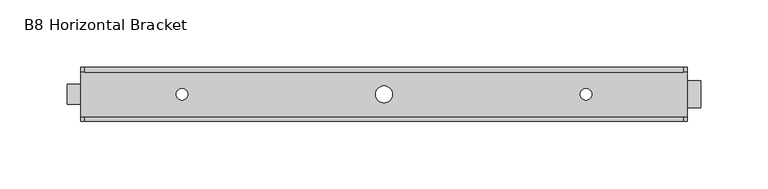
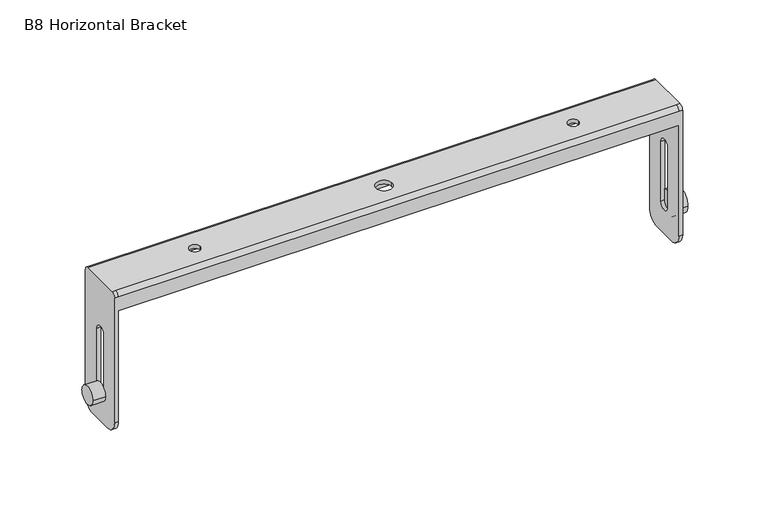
"""IFC4 building model written with IfcOpenShell, lengths in millimetres: proxy geometry, d&b B8 Horizontal Bracket : B8 Horizontal Bracket."""

from ifc_helpers import new_model, si_unit, point, frame, frame_2d, origin, place, context, project, spatial, polyline, circle_curve, trimmed, segment, composite_curve, outline, extrude, source, transform, mapped, element, save
from ifc_brep_helpers import plane_surface, cylinder_surface, revolved_surface, advanced_brep


def b8_horizontal_bracket_ac25d2c8(model_context):
    return source(origin(), model_context, "Body", "SolidModel", [
        extrude(outline(composite_curve([segment(trimmed(circle_curve(frame_2d((64.1784935, 59.2953074)), 7.5), [point((56.6784935, 59.2953074))], [point((71.6784935, 59.2953074))], False, "CARTESIAN"), True, "CONTINUOUS"), segment(trimmed(circle_curve(frame_2d((64.1784935, 59.2953074)), 7.5), [point((71.6784935, 59.2953074))], [point((56.6784935, 59.2953074))], False, "CARTESIAN"), True, "CONTINUOUS")], self_intersect=False)), frame((-235.0, 0.0, 0.0), z_axis=(1.0, 0.0, 0.0), x_axis=(0.0, 1.0, 0.0)), (0.0, 0.0, 1.0), 10.0),
        extrude(outline(composite_curve([segment(trimmed(circle_curve(frame_2d((64.1784935, 59.2953074)), 10.0), [point((54.1784935, 59.2953074))], [point((74.1784935, 59.2953074))], False, "CARTESIAN"), True, "CONTINUOUS"), segment(trimmed(circle_curve(frame_2d((64.1784935, 59.2953074)), 10.0), [point((74.1784935, 59.2953074))], [point((54.1784935, 59.2953074))], False, "CARTESIAN"), True, "CONTINUOUS")], self_intersect=False)), frame((225.0, 0.0, 0.0), z_axis=(1.0, 0.0, 0.0), x_axis=(0.0, 1.0, 0.0)), (0.0, 0.0, 1.0), 10.0),
        advanced_brep(
        [(222.0, 84.2129376, 137.6953074), (-222.0, 84.2129376, 137.6953074), (-222.0, 84.2129376, 44.6953074), (-225.0, 84.2129376, 44.6953074), (-225.0, 84.2129376, 149.1953074), (-222.0, 84.2129376, 149.1953074), (222.0, 84.2129376, 149.1953074), (225.0, 84.2129376, 149.1953074), (225.0, 84.2129376, 44.6953074), (222.0, 84.2129376, 44.6953074), (-222.0, 80.7129376, 152.6953074), (222.0, 80.7129376, 152.6953074), (-225.0, 80.7129376, 152.6953074), (-225.0, 47.7129376, 152.6953074), (-222.0, 47.7129376, 152.6953074), (222.0, 47.7129376, 152.6953074), (225.0, 47.7129376, 152.6953074), (225.0, 80.7129376, 152.6953074), (-6.2226427, 64.2129376, 152.6953074), (6.2226427, 64.2129376, 152.6953074), (145.7334614, 64.2129376, 152.6953074), (154.2334614, 64.2129376, 152.6953074), (-154.2334614, 64.2129376, 152.6953074), (-145.7334614, 64.2129376, 152.6953074), (-222.0, 81.2129376, 149.6953074), (222.0, 81.2129376, 149.6953074), (222.0, 47.2129376, 149.6953074), (-222.0, 47.2129376, 149.6953074), (-6.2226427, 64.2129376, 149.6953074), (6.2226427, 64.2129376, 149.6953074), (145.7334614, 64.2129376, 149.6953074), (154.2334614, 64.2129376, 149.6953074), (-154.2334614, 64.2129376, 149.6953074), (-145.7334614, 64.2129376, 149.6953074), (-222.0, 81.2129376, 137.6953074), (222.0, 81.2129376, 137.6953074), (222.0, 44.2129376, 137.6953074), (-222.0, 44.2129376, 137.6953074), (-222.0, 47.2129376, 137.6953074), (222.0, 47.2129376, 137.6953074), (-222.0, 44.2129376, 149.1953074), (222.0, 44.2129376, 149.1953074), (222.0, 44.2129376, 44.6953074), (225.0, 44.2129376, 44.6953074), (225.0, 44.2129376, 149.1953074), (-225.0, 44.2129376, 149.1953074), (-225.0, 44.2129376, 44.6953074), (-222.0, 44.2129376, 44.6953074), (-222.0, 54.2129376, 34.6953074), (-222.0, 74.2129376, 34.6953074), (-222.0, 68.7129376, 59.2953074), (-222.0, 59.7129376, 58.5079094), (-222.0, 59.7129376, 108.5079094), (-222.0, 68.7129376, 109.2953074), (-225.0, 74.2129376, 34.6953074), (-225.0, 54.2129376, 34.6953074), (-225.0, 68.7129376, 59.2953074), (-225.0, 68.7129376, 109.2953074), (-225.0, 59.7129376, 108.5079094), (-225.0, 59.7129376, 58.5079094), (225.0, 54.2129376, 34.6953074), (225.0, 74.2129376, 34.6953074), (225.0, 68.7129376, 59.2953074), (225.0, 59.7129376, 58.5079094), (225.0, 59.7129376, 108.5079094), (225.0, 68.7129376, 109.2953074), (222.0, 74.2129376, 34.6953074), (222.0, 54.2129376, 34.6953074), (222.0, 68.7129376, 59.2953074), (222.0, 68.7129376, 109.2953074), (222.0, 59.7129376, 108.5079094), (222.0, 59.7129376, 58.5079094)],
        [
            (0, 1),
            (1, 2),
            (2, 3),
            (3, 4),
            (4, 5),
            (5, 6),
            (6, 7),
            (7, 8),
            (8, 9),
            (9, 0),
            (5, 10, circle_curve(frame((-222.0, 80.7129376, 149.1953074), z_axis=(1.0, 0.0, 0.0), x_axis=(0.0, 1.0, 0.0)), 3.5)),
            (10, 11),
            (11, 6, circle_curve(frame((222.0, 80.7129376, 149.1953074), z_axis=(-1.0, 0.0, 0.0), x_axis=(0.0, 1.0, 0.0)), 3.5)),
            (10, 12),
            (12, 13),
            (13, 14),
            (14, 15),
            (15, 16),
            (16, 17),
            (17, 11),
            (18, 19, circle_curve(frame((0.0, 64.2129376, 152.6953074), z_axis=(0.0, 0.0, -1.0), x_axis=(1.0, 0.0, 0.0)), 6.2226427)),
            (19, 18, circle_curve(frame((0.0, 64.2129376, 152.6953074), z_axis=(0.0, 0.0, -1.0), x_axis=(1.0, 0.0, 0.0)), 6.2226427)),
            (20, 21, circle_curve(frame((149.9834614, 64.2129376, 152.6953074), z_axis=(0.0, 0.0, -1.0), x_axis=(1.0, 0.0, 0.0)), 4.25)),
            (21, 20, circle_curve(frame((149.9834614, 64.2129376, 152.6953074), z_axis=(0.0, 0.0, -1.0), x_axis=(1.0, 0.0, 0.0)), 4.25)),
            (22, 23, circle_curve(frame((-149.9834614, 64.2129376, 152.6953074), z_axis=(0.0, 0.0, -1.0), x_axis=(1.0, 0.0, 0.0)), 4.25)),
            (23, 22, circle_curve(frame((-149.9834614, 64.2129376, 152.6953074), z_axis=(0.0, 0.0, -1.0), x_axis=(1.0, 0.0, 0.0)), 4.25)),
            (24, 25),
            (25, 26),
            (26, 27),
            (27, 24),
            (28, 29, circle_curve(frame((0.0, 64.2129376, 149.6953074), z_axis=(0.0, 0.0, 1.0), x_axis=(1.0, 0.0, 0.0)), 6.2226427)),
            (29, 28, circle_curve(frame((0.0, 64.2129376, 149.6953074), z_axis=(0.0, 0.0, 1.0), x_axis=(1.0, 0.0, 0.0)), 6.2226427)),
            (30, 31, circle_curve(frame((149.9834614, 64.2129376, 149.6953074), z_axis=(0.0, 0.0, 1.0), x_axis=(1.0, 0.0, 0.0)), 4.25)),
            (31, 30, circle_curve(frame((149.9834614, 64.2129376, 149.6953074), z_axis=(0.0, 0.0, 1.0), x_axis=(1.0, 0.0, 0.0)), 4.25)),
            (32, 33, circle_curve(frame((-149.9834614, 64.2129376, 149.6953074), z_axis=(0.0, 0.0, 1.0), x_axis=(1.0, 0.0, 0.0)), 4.25)),
            (33, 32, circle_curve(frame((-149.9834614, 64.2129376, 149.6953074), z_axis=(0.0, 0.0, 1.0), x_axis=(1.0, 0.0, 0.0)), 4.25)),
            (24, 34),
            (34, 35),
            (35, 25),
            (0, 35),
            (34, 1),
            (36, 37),
            (37, 38),
            (38, 39),
            (39, 36),
            (38, 27),
            (26, 39),
            (14, 40, circle_curve(frame((-222.0, 47.7129376, 149.1953074), z_axis=(1.0, 0.0, 0.0), x_axis=(0.0, 1.0, 0.0)), 3.5)),
            (40, 41),
            (41, 15, circle_curve(frame((222.0, 47.7129376, 149.1953074), z_axis=(-1.0, 0.0, 0.0), x_axis=(0.0, 1.0, 0.0)), 3.5)),
            (36, 42),
            (42, 43),
            (43, 44),
            (44, 41),
            (40, 45),
            (45, 46),
            (46, 47),
            (47, 37),
            (28, 18),
            (19, 29),
            (30, 20),
            (21, 31),
            (32, 22),
            (23, 33),
            (47, 48, circle_curve(frame((-222.0, 54.2129376, 44.6953074), z_axis=(1.0, 0.0, 0.0), x_axis=(0.0, 1.0, 0.0)), 10.0)),
            (48, 49),
            (49, 2, circle_curve(frame((-222.0, 74.2129376, 44.6953074), z_axis=(1.0, 0.0, 0.0), x_axis=(0.0, 1.0, 0.0)), 10.0)),
            (50, 51, circle_curve(frame((-222.0, 64.1784935, 59.2953074), z_axis=(-1.0, 0.0, 0.0), x_axis=(0.0, 1.0, 0.0)), 4.5344442)),
            (51, 52),
            (52, 53, circle_curve(frame((-222.0, 64.1784935, 109.2953074), z_axis=(-1.0, 0.0, 0.0), x_axis=(0.0, 1.0, 0.0)), 4.5344442)),
            (53, 50),
            (3, 54, circle_curve(frame((-225.0, 74.2129376, 44.6953074), z_axis=(-1.0, 0.0, 0.0), x_axis=(0.0, 1.0, 0.0)), 10.0)),
            (54, 55),
            (55, 46, circle_curve(frame((-225.0, 54.2129376, 44.6953074), z_axis=(-1.0, 0.0, 0.0), x_axis=(0.0, 1.0, 0.0)), 10.0)),
            (45, 13, circle_curve(frame((-225.0, 47.7129376, 149.1953074), z_axis=(-1.0, 0.0, 0.0), x_axis=(0.0, 1.0, 0.0)), 3.5)),
            (12, 4, circle_curve(frame((-225.0, 80.7129376, 149.1953074), z_axis=(-1.0, 0.0, 0.0), x_axis=(0.0, 1.0, 0.0)), 3.5)),
            (56, 57),
            (57, 58, circle_curve(frame((-225.0, 64.1784935, 109.2953074), z_axis=(1.0, 0.0, 0.0), x_axis=(0.0, 1.0, 0.0)), 4.5344442)),
            (58, 59),
            (59, 56, circle_curve(frame((-225.0, 64.1784935, 59.2953074), z_axis=(1.0, 0.0, 0.0), x_axis=(0.0, 1.0, 0.0)), 4.5344442)),
            (55, 48),
            (54, 49),
            (50, 56),
            (59, 51),
            (58, 52),
            (57, 53),
            (7, 17, circle_curve(frame((225.0, 80.7129376, 149.1953074), z_axis=(1.0, 0.0, 0.0), x_axis=(0.0, 1.0, 0.0)), 3.5)),
            (16, 44, circle_curve(frame((225.0, 47.7129376, 149.1953074), z_axis=(1.0, 0.0, 0.0), x_axis=(0.0, 1.0, 0.0)), 3.5)),
            (43, 60, circle_curve(frame((225.0, 54.2129376, 44.6953074), z_axis=(1.0, 0.0, 0.0), x_axis=(0.0, 1.0, 0.0)), 10.0)),
            (60, 61),
            (61, 8, circle_curve(frame((225.0, 74.2129376, 44.6953074), z_axis=(1.0, 0.0, 0.0), x_axis=(0.0, 1.0, 0.0)), 10.0)),
            (62, 63, circle_curve(frame((225.0, 64.1784935, 59.2953074), z_axis=(-1.0, 0.0, 0.0), x_axis=(0.0, 1.0, 0.0)), 4.5344442)),
            (63, 64),
            (64, 65, circle_curve(frame((225.0, 64.1784935, 109.2953074), z_axis=(-1.0, 0.0, 0.0), x_axis=(0.0, 1.0, 0.0)), 4.5344442)),
            (65, 62),
            (9, 66, circle_curve(frame((222.0, 74.2129376, 44.6953074), z_axis=(-1.0, 0.0, 0.0), x_axis=(0.0, 1.0, 0.0)), 10.0)),
            (66, 67),
            (67, 42, circle_curve(frame((222.0, 54.2129376, 44.6953074), z_axis=(-1.0, 0.0, 0.0), x_axis=(0.0, 1.0, 0.0)), 10.0)),
            (68, 69),
            (69, 70, circle_curve(frame((222.0, 64.1784935, 109.2953074), z_axis=(1.0, 0.0, 0.0), x_axis=(0.0, 1.0, 0.0)), 4.5344442)),
            (70, 71),
            (71, 68, circle_curve(frame((222.0, 64.1784935, 59.2953074), z_axis=(1.0, 0.0, 0.0), x_axis=(0.0, 1.0, 0.0)), 4.5344442)),
            (67, 60),
            (66, 61),
            (62, 68),
            (71, 63),
            (70, 64),
            (69, 65),
        ],
        [
            plane_surface(frame((222.0, 84.2129376, 137.6953074), z_axis=(0.0, 1.0, 0.0), x_axis=(-1.0, 0.0, 0.0))),
            cylinder_surface(frame((-222.0, 80.7129376, 149.1953074), z_axis=(1.0, 0.0, 0.0), x_axis=(0.0, 1.0, 0.0)), 3.5),
            plane_surface(frame((222.0, 80.7129376, 152.6953074), z_axis=(0.0, 0.0, 1.0), x_axis=(-1.0, 0.0, 0.0))),
            plane_surface(frame((222.0, 79.259623, 149.6953074), z_axis=(0.0, 0.0, -1.0), x_axis=(-1.0, 0.0, 0.0))),
            plane_surface(frame((222.0, 81.2129376, 149.6953074), z_axis=(0.0, -1.0, 0.0), x_axis=(-1.0, 0.0, 0.0))),
            plane_surface(frame((222.0, 81.2129376, 137.6953074), z_axis=(0.0, 0.0, -1.0), x_axis=(-1.0, 0.0, 0.0))),
            plane_surface(frame((222.0, 44.2129376, 137.6953074), z_axis=(0.0, 0.0, -1.0), x_axis=(-1.0, 0.0, 0.0))),
            plane_surface(frame((222.0, 47.2129376, 137.6953074), z_axis=(0.0, 1.0, 0.0), x_axis=(-1.0, 0.0, 0.0))),
            cylinder_surface(frame((27.1058086, 47.7129376, 149.1953074), z_axis=(1.0, 0.0, 0.0), x_axis=(0.0, 1.0, 0.0)), 3.5),
            plane_surface(frame((222.0, 44.2129376, 149.1953074), z_axis=(0.0, -1.0, 0.0), x_axis=(-1.0, 0.0, 0.0))),
            revolved_surface(polyline([(6.2226427, 64.2129376, 152.6953074), (6.2226427, 64.2129376, 149.6953074)]), (0.0, 64.2129376, 59.2953074), (0.0, 0.0, 1.0)),
            revolved_surface(polyline([(154.2334614, 64.2129376, 152.6953074), (154.2334614, 64.2129376, 149.6953074)]), (149.9834614, 64.2129376, 59.2953074), (0.0, 0.0, 1.0)),
            revolved_surface(polyline([(-145.7334614, 64.2129376, 152.6953074), (-145.7334614, 64.2129376, 149.6953074)]), (-149.9834614, 64.2129376, 59.2953074), (0.0, 0.0, 1.0)),
            plane_surface(frame((-222.0, 84.2129376, 149.1953074), z_axis=(1.0, 0.0, 0.0), x_axis=(0.0, 0.0, 1.0))),
            plane_surface(frame((-225.0, 84.2129376, 149.1953074), z_axis=(-1.0, 0.0, 0.0), x_axis=(0.0, 0.0, -1.0))),
            cylinder_surface(frame((-225.0, 80.7129376, 149.1953074), z_axis=(1.0, 0.0, 0.0), x_axis=(0.0, 1.0, 0.0)), 3.5),
            cylinder_surface(frame((-225.0, 47.7129376, 149.1953074), z_axis=(1.0, 0.0, 0.0), x_axis=(0.0, 1.0, 0.0)), 3.5),
            cylinder_surface(frame((-225.0, 54.2129376, 44.6953074), z_axis=(1.0, 0.0, 0.0), x_axis=(0.0, 1.0, 0.0)), 10.0),
            plane_surface(frame((-222.0, 54.2129376, 34.6953074), z_axis=(0.0, 0.0, -1.0), x_axis=(-1.0, 0.0, 0.0))),
            cylinder_surface(frame((-225.0, 74.2129376, 44.6953074), z_axis=(1.0, 0.0, 0.0), x_axis=(0.0, 1.0, 0.0)), 10.0),
            revolved_surface(polyline([(-225.0, 68.7129377, 59.2953074), (-222.0, 68.7129377, 59.2953074)]), (27.1058086, 64.1784935, 59.2953074), (-1.0, 0.0, 0.0)),
            plane_surface(frame((-222.0, 59.7129376, 58.5079094), z_axis=(0.0, 1.0, 0.0), x_axis=(-1.0, 0.0, 0.0))),
            revolved_surface(polyline([(-225.0, 68.7129377, 109.2953074), (-222.0, 68.7129377, 109.2953074)]), (27.1058086, 64.1784935, 109.2953074), (-1.0, 0.0, 0.0)),
            plane_surface(frame((-222.0, 68.7129376, 109.2953074), z_axis=(0.0, -1.0, 0.0), x_axis=(-1.0, 0.0, 0.0))),
            plane_surface(frame((225.0, 84.2129376, 149.1953074), z_axis=(1.0, 0.0, 0.0), x_axis=(0.0, 0.0, 1.0))),
            plane_surface(frame((222.0, 84.2129376, 149.1953074), z_axis=(-1.0, 0.0, 0.0), x_axis=(0.0, 0.0, -1.0))),
            cylinder_surface(frame((222.0, 80.7129376, 149.1953074), z_axis=(1.0, 0.0, 0.0), x_axis=(0.0, 1.0, 0.0)), 3.5),
            cylinder_surface(frame((222.0, 47.7129376, 149.1953074), z_axis=(1.0, 0.0, 0.0), x_axis=(0.0, 1.0, 0.0)), 3.5),
            cylinder_surface(frame((222.0, 54.2129376, 44.6953074), z_axis=(1.0, 0.0, 0.0), x_axis=(0.0, 1.0, 0.0)), 10.0),
            plane_surface(frame((225.0, 54.2129376, 34.6953074), z_axis=(0.0, 0.0, -1.0), x_axis=(-1.0, 0.0, 0.0))),
            cylinder_surface(frame((222.0, 74.2129376, 44.6953074), z_axis=(1.0, 0.0, 0.0), x_axis=(0.0, 1.0, 0.0)), 10.0),
            revolved_surface(polyline([(222.0, 68.7129377, 59.2953074), (225.0, 68.7129377, 59.2953074)]), (27.1058086, 64.1784935, 59.2953074), (-1.0, 0.0, 0.0)),
            plane_surface(frame((225.0, 59.7129376, 58.5079094), z_axis=(0.0, 1.0, 0.0), x_axis=(-1.0, 0.0, 0.0))),
            revolved_surface(polyline([(222.0, 68.7129377, 109.2953074), (225.0, 68.7129377, 109.2953074)]), (27.1058086, 64.1784935, 109.2953074), (-1.0, 0.0, 0.0)),
            plane_surface(frame((225.0, 68.7129376, 109.2953074), z_axis=(0.0, -1.0, 0.0), x_axis=(-1.0, 0.0, 0.0))),
        ],
        [
            (0, [[1, 2, 3, 4, 5, 6, 7, 8, 9, 10]]),
            (1, [[-6, 11, 12, 13]]),
            (2, [[-12, 14, 15, 16, 17, 18, 19, 20], [21, 22], [23, 24], [25, 26]]),
            (3, [[27, 28, 29, 30], [31, 32], [33, 34], [35, 36]]),
            (4, [[-27, 37, 38, 39]]),
            (5, [[-1, 40, -38, 41]]),
            (6, [[42, 43, 44, 45]]),
            (7, [[-44, 46, -29, 47]]),
            (8, [[-17, 48, 49, 50]]),
            (9, [[-42, 51, 52, 53, 54, -49, 55, 56, 57, 58]]),
            (10, [[-31, 59, -22, 60]]),
            (10, [[-32, -60, -21, -59]]),
            (11, [[-33, 61, -24, 62]]),
            (11, [[-34, -62, -23, -61]]),
            (12, [[-35, 63, -26, 64]]),
            (12, [[-36, -64, -25, -63]]),
            (13, [[65, 66, 67, -2, -41, -37, -30, -46, -43, -58], [68, 69, 70, 71]]),
            (14, [[-4, 72, 73, 74, -56, 75, -15, 76], [77, 78, 79, 80]]),
            (15, [[-76, -14, -11, -5]]),
            (16, [[-75, -55, -48, -16]]),
            (17, [[-65, -57, -74, 81]]),
            (18, [[-66, -81, -73, 82]]),
            (19, [[-67, -82, -72, -3]]),
            (20, [[-68, 83, -80, 84]]),
            (21, [[-69, -84, -79, 85]]),
            (22, [[-70, -85, -78, 86]]),
            (23, [[-71, -86, -77, -83]]),
            (24, [[87, -19, 88, -53, 89, 90, 91, -8], [92, 93, 94, 95]]),
            (25, [[96, 97, 98, -51, -45, -47, -28, -39, -40, -10], [99, 100, 101, 102]]),
            (26, [[-87, -7, -13, -20]]),
            (27, [[-88, -18, -50, -54]]),
            (28, [[-89, -52, -98, 103]]),
            (29, [[-90, -103, -97, 104]]),
            (30, [[-91, -104, -96, -9]]),
            (31, [[-92, 105, -102, 106]]),
            (32, [[-93, -106, -101, 107]]),
            (33, [[-94, -107, -100, 108]]),
            (34, [[-95, -108, -99, -105]]),
        ],
    ),
    ])


if __name__ == "__main__":
    model = new_model("IFC4")
    model_context = context("Model", 3, world=origin())
    ifc_project = project(units=[si_unit("LENGTHUNIT", "METRE", prefix="MILLI")], contexts=[model_context])
    site = spatial("IfcSite", under=ifc_project)
    building = spatial("IfcBuilding", under=site)
    placement = place(None, origin())
    b8_horizontal_bracket_shape = b8_horizontal_bracket_ac25d2c8(model_context)
    element("IfcBuildingElementProxy", 1, Name="d&b B8 Horizontal Bracket : B8 Horizontal Bracket", ObjectType="d&b B8 Horizontal Bracket : B8 Horizontal Bracket", at=placement, inside=building, context=model_context, shape_type="MappedRepresentation", body=[
        mapped(b8_horizontal_bracket_shape, transform((0.0, 0.0, 0.0), x_axis=(1.0, 0.0, 0.0), y_axis=(0.0, 1.0, 0.0), z_axis=(0.0, 0.0, 1.0))),
    ])
    save(model, "model.ifc")
